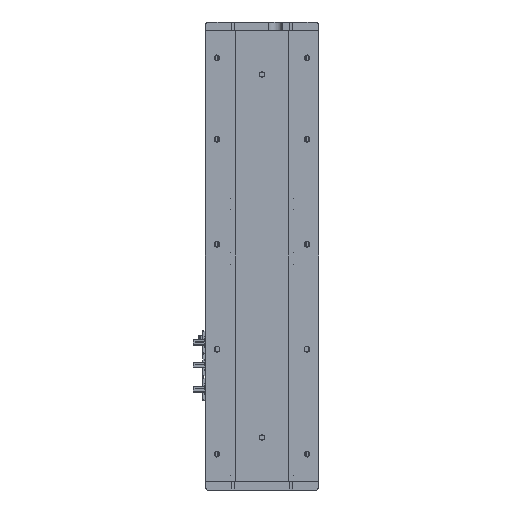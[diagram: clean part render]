
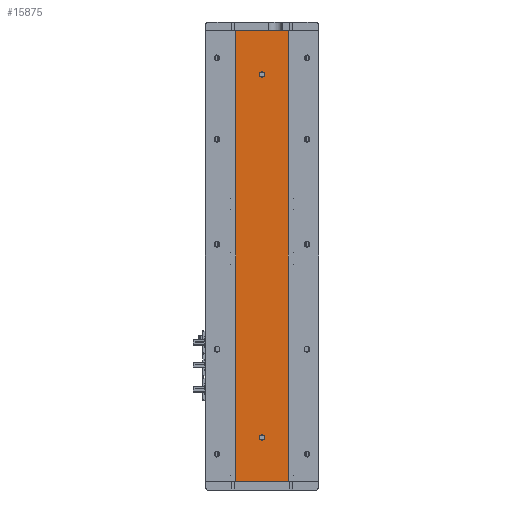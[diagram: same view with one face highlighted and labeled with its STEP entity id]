
A CAD part, left-side view. The second image highlights one B-rep face of the part: STEP entity #15875.
In plain terms, the highlighted planar face has unit normal (-1, 0, 0).
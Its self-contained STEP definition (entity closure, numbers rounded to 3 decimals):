
#143 = DIRECTION ( 'NONE',  ( -1., 0., 0. ) ) ;
#605 = DIRECTION ( 'NONE',  ( -1., 0., 0. ) ) ;
#673 = CARTESIAN_POINT ( 'NONE',  ( -24.994, 0., 462. ) ) ;
#1062 = CARTESIAN_POINT ( 'NONE',  ( -24.994, 0., 50. ) ) ;
#1123 = CARTESIAN_POINT ( 'NONE',  ( -24.994, 0., 468. ) ) ;
#1527 = VERTEX_POINT ( 'NONE', #12396 ) ;
#1891 = CARTESIAN_POINT ( 'NONE',  ( -24.994, -29.785, 0. ) ) ;
#1964 = EDGE_LOOP ( 'NONE', ( #13219, #5664, #19423, #22587 ) ) ;
#2366 = VERTEX_POINT ( 'NONE', #22308 ) ;
#2665 = LINE ( 'NONE', #28014, #21581 ) ;
#2954 = CARTESIAN_POINT ( 'NONE',  ( -24.994, 0., 465. ) ) ;
#3423 = DIRECTION ( 'NONE',  ( 0., 0., 1. ) ) ;
#3442 = VERTEX_POINT ( 'NONE', #673 ) ;
#4147 = DIRECTION ( 'NONE',  ( 1., 0., 0. ) ) ;
#5311 = EDGE_CURVE ( 'NONE', #21762, #11540, #12027, .T. ) ;
#5321 = VECTOR ( 'NONE', #14905, 1000. ) ;
#5359 = DIRECTION ( 'NONE',  ( 0., 0., 1. ) ) ;
#5664 = ORIENTED_EDGE ( 'NONE', *, *, #5311, .F. ) ;
#6053 = CIRCLE ( 'NONE', #11700, 3. ) ;
#7384 = EDGE_CURVE ( 'NONE', #2366, #11540, #11607, .T. ) ;
#7787 = CARTESIAN_POINT ( 'NONE',  ( -24.994, 29.785, 0. ) ) ;
#8873 = AXIS2_PLACEMENT_3D ( 'NONE', #18374, #4147, #20744 ) ;
#9241 = CARTESIAN_POINT ( 'NONE',  ( -24.994, -29.785, 515. ) ) ;
#9474 = CARTESIAN_POINT ( 'NONE',  ( -24.994, 29.785, 515. ) ) ;
#9510 = VECTOR ( 'NONE', #28614, 1000. ) ;
#9644 = EDGE_CURVE ( 'NONE', #25584, #21762, #2665, .T. ) ;
#10026 = VERTEX_POINT ( 'NONE', #12993 ) ;
#10828 = EDGE_CURVE ( 'NONE', #1527, #10026, #6053, .T. ) ;
#11005 = CIRCLE ( 'NONE', #11290, 3. ) ;
#11079 = EDGE_LOOP ( 'NONE', ( #15949, #30538 ) ) ;
#11290 = AXIS2_PLACEMENT_3D ( 'NONE', #14314, #143, #16710 ) ;
#11540 = VERTEX_POINT ( 'NONE', #1891 ) ;
#11607 = LINE ( 'NONE', #7787, #5321 ) ;
#11700 = AXIS2_PLACEMENT_3D ( 'NONE', #14765, #605, #17193 ) ;
#12027 = LINE ( 'NONE', #9241, #18330 ) ;
#12046 = CIRCLE ( 'NONE', #30568, 3. ) ;
#12396 = CARTESIAN_POINT ( 'NONE',  ( -24.994, 0., 47. ) ) ;
#12993 = CARTESIAN_POINT ( 'NONE',  ( -24.994, 0., 53. ) ) ;
#13219 = ORIENTED_EDGE ( 'NONE', *, *, #7384, .T. ) ;
#13826 = DIRECTION ( 'NONE',  ( 0., -1., 0. ) ) ;
#14314 = CARTESIAN_POINT ( 'NONE',  ( -24.994, 0., 465. ) ) ;
#14765 = CARTESIAN_POINT ( 'NONE',  ( -24.994, 0., 50. ) ) ;
#14905 = DIRECTION ( 'NONE',  ( 0., -1., 0. ) ) ;
#15875 = ADVANCED_FACE ( 'NONE', ( #19266, #18504, #24813 ), #23027, .F. ) ;
#15949 = ORIENTED_EDGE ( 'NONE', *, *, #21549, .F. ) ;
#16088 = CIRCLE ( 'NONE', #24480, 3. ) ;
#16450 = CARTESIAN_POINT ( 'NONE',  ( -24.994, -29.785, 515. ) ) ;
#16710 = DIRECTION ( 'NONE',  ( 0., 0., 1. ) ) ;
#17193 = DIRECTION ( 'NONE',  ( 0., 0., 1. ) ) ;
#17648 = DIRECTION ( 'NONE',  ( -1., 0., 0. ) ) ;
#18120 = EDGE_LOOP ( 'NONE', ( #28860, #23992 ) ) ;
#18330 = VECTOR ( 'NONE', #23465, 1000. ) ;
#18374 = CARTESIAN_POINT ( 'NONE',  ( -24.994, 29.785, 515. ) ) ;
#18504 = FACE_BOUND ( 'NONE', #11079, .T. ) ;
#19266 = FACE_BOUND ( 'NONE', #18120, .T. ) ;
#19423 = ORIENTED_EDGE ( 'NONE', *, *, #9644, .F. ) ;
#19580 = DIRECTION ( 'NONE',  ( -1., 0., 0. ) ) ;
#20744 = DIRECTION ( 'NONE',  ( 0., 0., -1. ) ) ;
#21549 = EDGE_CURVE ( 'NONE', #10026, #1527, #12046, .T. ) ;
#21581 = VECTOR ( 'NONE', #13826, 1000. ) ;
#21762 = VERTEX_POINT ( 'NONE', #16450 ) ;
#22073 = VERTEX_POINT ( 'NONE', #1123 ) ;
#22308 = CARTESIAN_POINT ( 'NONE',  ( -24.994, 29.785, 0. ) ) ;
#22573 = EDGE_CURVE ( 'NONE', #22073, #3442, #16088, .T. ) ;
#22587 = ORIENTED_EDGE ( 'NONE', *, *, #28838, .T. ) ;
#23027 = PLANE ( 'NONE',  #8873 ) ;
#23465 = DIRECTION ( 'NONE',  ( 0., 0., -1. ) ) ;
#23992 = ORIENTED_EDGE ( 'NONE', *, *, #28803, .F. ) ;
#24480 = AXIS2_PLACEMENT_3D ( 'NONE', #2954, #19580, #5359 ) ;
#24813 = FACE_OUTER_BOUND ( 'NONE', #1964, .T. ) ;
#25584 = VERTEX_POINT ( 'NONE', #9474 ) ;
#26275 = CARTESIAN_POINT ( 'NONE',  ( -24.994, 29.785, 515. ) ) ;
#28014 = CARTESIAN_POINT ( 'NONE',  ( -24.994, 29.785, 515. ) ) ;
#28401 = LINE ( 'NONE', #26275, #9510 ) ;
#28614 = DIRECTION ( 'NONE',  ( 0., 0., -1. ) ) ;
#28803 = EDGE_CURVE ( 'NONE', #3442, #22073, #11005, .T. ) ;
#28838 = EDGE_CURVE ( 'NONE', #25584, #2366, #28401, .T. ) ;
#28860 = ORIENTED_EDGE ( 'NONE', *, *, #22573, .F. ) ;
#30538 = ORIENTED_EDGE ( 'NONE', *, *, #10828, .F. ) ;
#30568 = AXIS2_PLACEMENT_3D ( 'NONE', #1062, #17648, #3423 ) ;
